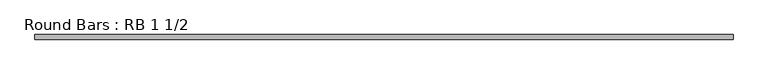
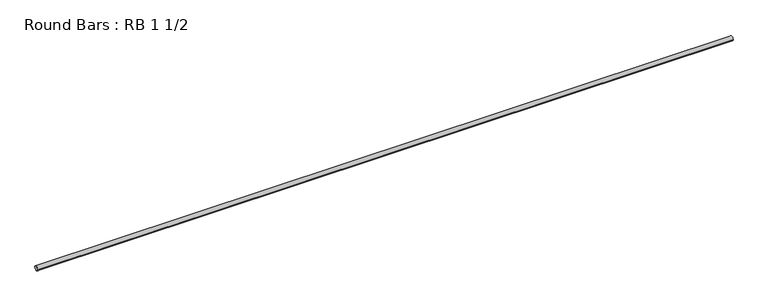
"""IFC4 building model written with IfcOpenShell, lengths in millimetres: member geometry, Round Bars : RB 1 1/2."""

from ifc_helpers import new_model, si_unit, point, frame, origin, origin_2d, place, context, project, spatial, circle_curve, trimmed, segment, composite_curve, outline, extrude, source, transform, mapped, element, save


def round_bars_rb_1_1_2_0c6969ab(model_context):
    return source(origin(), model_context, "Body", "SweptSolid", [
        extrude(outline(composite_curve([segment(trimmed(circle_curve(origin_2d(), 19.05), [point((19.05, 0.0))], [point((-19.05, 0.0))], False, "CARTESIAN"), True, "CONTINUOUS"), segment(trimmed(circle_curve(origin_2d(), 19.05), [point((-19.05, 0.0))], [point((19.05, 0.0))], False, "CARTESIAN"), True, "CONTINUOUS")], self_intersect=False)), frame((-2895.6745087, 0.0, 0.0), z_axis=(1.0, 0.0, 0.0), x_axis=(0.0, 1.0, 0.0)), (0.0, 0.0, 1.0), 5791.3490174),
    ])


if __name__ == "__main__":
    model = new_model("IFC4")
    model_context = context("Model", 3, world=origin())
    ifc_project = project(units=[si_unit("LENGTHUNIT", "METRE", prefix="MILLI")], contexts=[model_context])
    site = spatial("IfcSite", under=ifc_project)
    building = spatial("IfcBuilding", under=site)
    placement = place(None, origin())
    round_bars_rb_1_1_2_shape = round_bars_rb_1_1_2_0c6969ab(model_context)
    element("IfcMember", 1, ObjectType="Round Bars : RB 1 1/2", at=placement, inside=building, context=model_context, shape_type="MappedRepresentation", body=[
        mapped(round_bars_rb_1_1_2_shape, transform((0.0, 0.0, 0.0), x_axis=(1.0, 0.0, 0.0), y_axis=(0.0, 1.0, 0.0), z_axis=(0.0, 0.0, 1.0))),
    ])
    save(model, "model.ifc")
